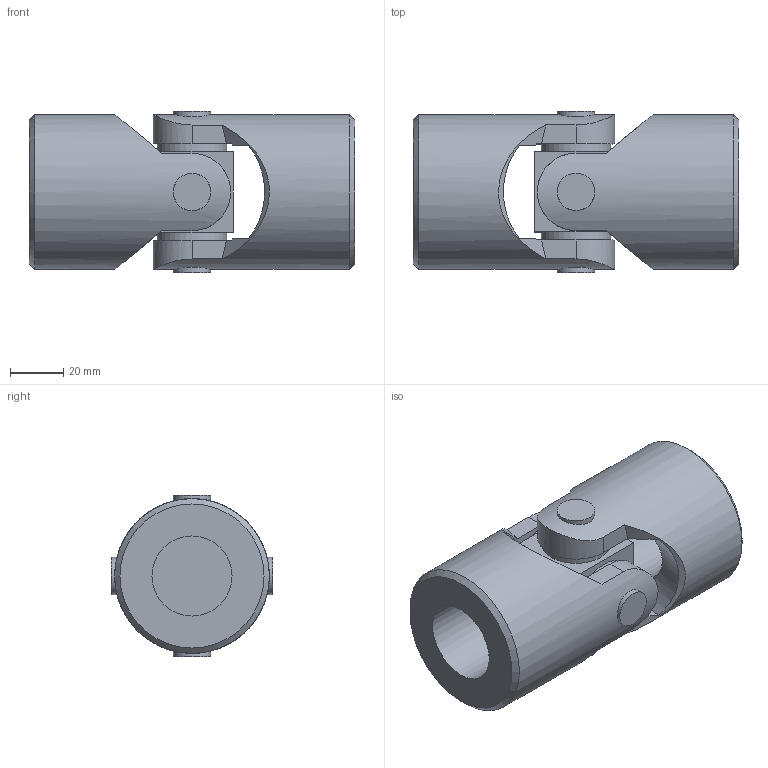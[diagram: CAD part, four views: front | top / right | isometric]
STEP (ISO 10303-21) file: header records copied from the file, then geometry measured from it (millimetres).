
FILE_DESCRIPTION(/* description */ (''),/* implementation_level */ '2;1');
FILE_NAME(/* name */ '\\SRV2016\societa\Stefano\Disegni 3D\0Catalogo 3D\13Singoli X\Ø58_6X_SX0S3000.stp',/* time_stamp */ '2023-05-12T16:14:05+02:00',/* author */ ('acquisti'),/* organization */ (''),/* preprocessor_version */ 'ST-DEVELOPER v15.6',/* originating_system */ 'Autodesk Inventor 2015',/* authorisation */ '');
FILE_SCHEMA (('AUTOMOTIVE_DESIGN { 1 0 10303 214 3 1 1 }'));
Length unit declared in the file: millimetre
Products named in the file (3): 6X SFE; 6X MOS; Ø58_6X_SX0S3000
Assembly tree (3 placements, depth 2):
  Ø58_6X_SX0S3000
    6X SFE
    6X MOS  x2
Bounding box: 122 x 60.5 x 60.5 mm (x, y, z)
Volume: 214228.3 mm3; surface area: 44477.8 mm2
Topology: 3 solids, 3 shells, 64 faces, 160 edges, 108 vertices
Faces by surface type: plane 32, cylinder 18, cone 12, torus 2
Full cylindrical faces by diameter (mm): 14 x4, 26 x4, 30 x2, 32 x2, 58 x2
Entity records: 1309 total; most frequent: CARTESIAN_POINT 436, DIRECTION 168, ORIENTED_EDGE 152, EDGE_CURVE 76, AXIS2_PLACEMENT_3D 72, EDGE_LOOP 58, VERTEX_POINT 58, FACE_OUTER_BOUND 39
